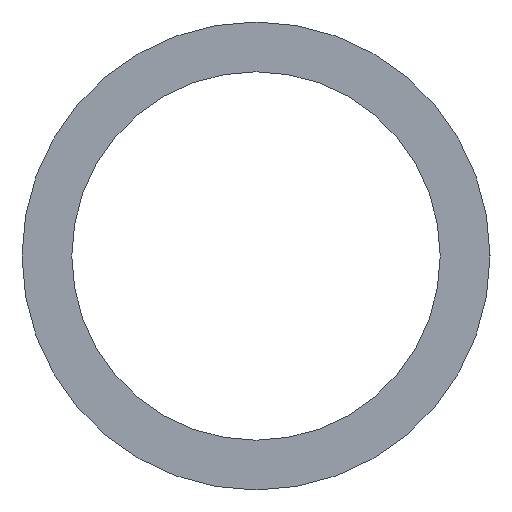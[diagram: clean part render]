
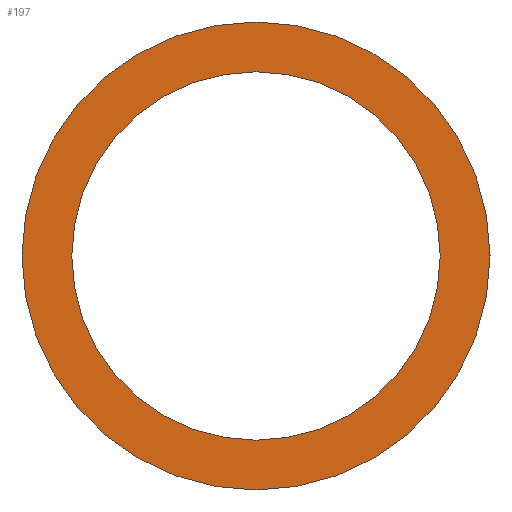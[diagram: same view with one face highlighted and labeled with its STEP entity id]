
A CAD part, left-side view. The second image highlights one B-rep face of the part: STEP entity #197.
In plain terms, the highlighted planar face has unit normal (-1, 0, 0).
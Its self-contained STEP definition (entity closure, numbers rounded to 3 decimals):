
#1 = VERTEX_POINT ( 'NONE', #175 ) ;
#2 = DIRECTION ( 'NONE',  ( 1., 0., 0. ) ) ;
#3 = EDGE_LOOP ( 'NONE', ( #39, #117 ) ) ;
#4 = AXIS2_PLACEMENT_3D ( 'NONE', #61, #192, #73 ) ;
#9 = ORIENTED_EDGE ( 'NONE', *, *, #121, .T. ) ;
#13 = DIRECTION ( 'NONE',  ( 1., 0., 0. ) ) ;
#14 = PLANE ( 'NONE',  #26 ) ;
#18 = AXIS2_PLACEMENT_3D ( 'NONE', #195, #13, #81 ) ;
#26 = AXIS2_PLACEMENT_3D ( 'NONE', #145, #2, #202 ) ;
#28 = CIRCLE ( 'NONE', #4, 108.15 ) ;
#39 = ORIENTED_EDGE ( 'NONE', *, *, #149, .F. ) ;
#41 = EDGE_CURVE ( 'NONE', #1, #108, #28, .T. ) ;
#61 = CARTESIAN_POINT ( 'NONE',  ( 0., 0., 0. ) ) ;
#63 = DIRECTION ( 'NONE',  ( 0., 0., -1. ) ) ;
#67 = AXIS2_PLACEMENT_3D ( 'NONE', #98, #150, #210 ) ;
#70 = EDGE_LOOP ( 'NONE', ( #122, #9 ) ) ;
#73 = DIRECTION ( 'NONE',  ( 0., 0., -1. ) ) ;
#74 = VERTEX_POINT ( 'NONE', #92 ) ;
#78 = CARTESIAN_POINT ( 'NONE',  ( 0., 0., -85.15 ) ) ;
#81 = DIRECTION ( 'NONE',  ( 0., 0., -1. ) ) ;
#86 = EDGE_CURVE ( 'NONE', #74, #137, #153, .T. ) ;
#92 = CARTESIAN_POINT ( 'NONE',  ( 0., 0., 85.15 ) ) ;
#97 = AXIS2_PLACEMENT_3D ( 'NONE', #139, #114, #63 ) ;
#98 = CARTESIAN_POINT ( 'NONE',  ( 0., 0., 0. ) ) ;
#108 = VERTEX_POINT ( 'NONE', #167 ) ;
#114 = DIRECTION ( 'NONE',  ( 1., 0., 0. ) ) ;
#117 = ORIENTED_EDGE ( 'NONE', *, *, #41, .F. ) ;
#121 = EDGE_CURVE ( 'NONE', #137, #74, #176, .T. ) ;
#122 = ORIENTED_EDGE ( 'NONE', *, *, #86, .T. ) ;
#137 = VERTEX_POINT ( 'NONE', #78 ) ;
#139 = CARTESIAN_POINT ( 'NONE',  ( 0., 0., 0. ) ) ;
#145 = CARTESIAN_POINT ( 'NONE',  ( 0., 0., 0. ) ) ;
#149 = EDGE_CURVE ( 'NONE', #108, #1, #204, .T. ) ;
#150 = DIRECTION ( 'NONE',  ( 1., 0., 0. ) ) ;
#153 = CIRCLE ( 'NONE', #97, 85.15 ) ;
#167 = CARTESIAN_POINT ( 'NONE',  ( 0., 0., 108.15 ) ) ;
#175 = CARTESIAN_POINT ( 'NONE',  ( 0., 0., -108.15 ) ) ;
#176 = CIRCLE ( 'NONE', #18, 85.15 ) ;
#180 = FACE_BOUND ( 'NONE', #70, .T. ) ;
#192 = DIRECTION ( 'NONE',  ( 1., 0., 0. ) ) ;
#193 = FACE_OUTER_BOUND ( 'NONE', #3, .T. ) ;
#195 = CARTESIAN_POINT ( 'NONE',  ( 0., 0., 0. ) ) ;
#197 = ADVANCED_FACE ( 'NONE', ( #193, #180 ), #14, .F. ) ;
#202 = DIRECTION ( 'NONE',  ( 0., 0., -1. ) ) ;
#204 = CIRCLE ( 'NONE', #67, 108.15 ) ;
#210 = DIRECTION ( 'NONE',  ( 0., 0., -1. ) ) ;
